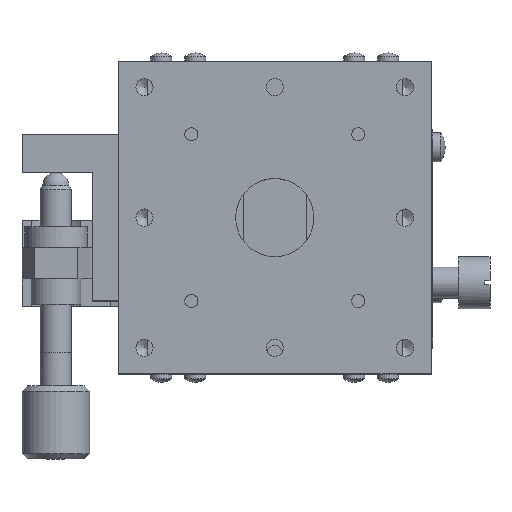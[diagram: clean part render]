
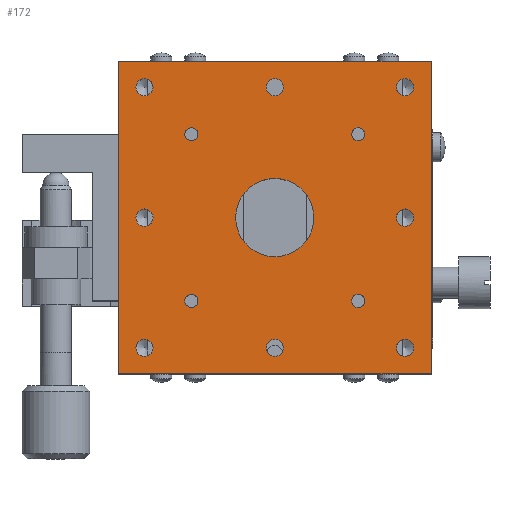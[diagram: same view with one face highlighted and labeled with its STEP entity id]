
A CAD part, top view. The second image highlights one B-rep face of the part: STEP entity #172.
In plain terms, the highlighted planar face has unit normal (0, 0, 1).
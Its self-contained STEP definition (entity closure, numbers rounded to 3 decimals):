
#172 = ADVANCED_FACE( '', ( #365, #366, #367, #368, #369, #370, #371, #372, #373, #374, #375, #376, #377, #378 ), #379, .T. );
#365 = FACE_BOUND( '', #876, .T. );
#366 = FACE_BOUND( '', #877, .T. );
#367 = FACE_BOUND( '', #878, .T. );
#368 = FACE_BOUND( '', #879, .T. );
#369 = FACE_BOUND( '', #880, .T. );
#370 = FACE_BOUND( '', #881, .T. );
#371 = FACE_BOUND( '', #882, .T. );
#372 = FACE_BOUND( '', #883, .T. );
#373 = FACE_BOUND( '', #884, .T. );
#374 = FACE_BOUND( '', #885, .T. );
#375 = FACE_BOUND( '', #886, .T. );
#376 = FACE_BOUND( '', #887, .T. );
#377 = FACE_BOUND( '', #888, .T. );
#378 = FACE_OUTER_BOUND( '', #889, .T. );
#379 = PLANE( '', #890 );
#876 = EDGE_LOOP( '', ( #1395 ) );
#877 = EDGE_LOOP( '', ( #1396 ) );
#878 = EDGE_LOOP( '', ( #1397 ) );
#879 = EDGE_LOOP( '', ( #1398 ) );
#880 = EDGE_LOOP( '', ( #1399 ) );
#881 = EDGE_LOOP( '', ( #1400 ) );
#882 = EDGE_LOOP( '', ( #1401 ) );
#883 = EDGE_LOOP( '', ( #1402 ) );
#884 = EDGE_LOOP( '', ( #1403 ) );
#885 = EDGE_LOOP( '', ( #1404 ) );
#886 = EDGE_LOOP( '', ( #1405 ) );
#887 = EDGE_LOOP( '', ( #1406 ) );
#888 = EDGE_LOOP( '', ( #1407 ) );
#889 = EDGE_LOOP( '', ( #1408, #1409, #1410, #1411 ) );
#890 = AXIS2_PLACEMENT_3D( '', #1412, #1413, #1414 );
#1395 = ORIENTED_EDGE( '', *, *, #2700, .T. );
#1396 = ORIENTED_EDGE( '', *, *, #2701, .T. );
#1397 = ORIENTED_EDGE( '', *, *, #2702, .T. );
#1398 = ORIENTED_EDGE( '', *, *, #2703, .T. );
#1399 = ORIENTED_EDGE( '', *, *, #2704, .T. );
#1400 = ORIENTED_EDGE( '', *, *, #2705, .T. );
#1401 = ORIENTED_EDGE( '', *, *, #2706, .T. );
#1402 = ORIENTED_EDGE( '', *, *, #2707, .T. );
#1403 = ORIENTED_EDGE( '', *, *, #2708, .T. );
#1404 = ORIENTED_EDGE( '', *, *, #2709, .T. );
#1405 = ORIENTED_EDGE( '', *, *, #2710, .T. );
#1406 = ORIENTED_EDGE( '', *, *, #2711, .T. );
#1407 = ORIENTED_EDGE( '', *, *, #2712, .T. );
#1408 = ORIENTED_EDGE( '', *, *, #2713, .F. );
#1409 = ORIENTED_EDGE( '', *, *, #2714, .F. );
#1410 = ORIENTED_EDGE( '', *, *, #2715, .F. );
#1411 = ORIENTED_EDGE( '', *, *, #2693, .F. );
#1412 = CARTESIAN_POINT( '', ( 0., 0., 20. ) );
#1413 = DIRECTION( '', ( 0., 0., 1. ) );
#1414 = DIRECTION( '', ( 1., 0., 0. ) );
#2693 = EDGE_CURVE( '', #3065, #3067, #3068, .T. );
#2700 = EDGE_CURVE( '', #3080, #3080, #3081, .T. );
#2701 = EDGE_CURVE( '', #3082, #3082, #3083, .T. );
#2702 = EDGE_CURVE( '', #3084, #3084, #3085, .T. );
#2703 = EDGE_CURVE( '', #3086, #3086, #3087, .T. );
#2704 = EDGE_CURVE( '', #3088, #3088, #3089, .T. );
#2705 = EDGE_CURVE( '', #3090, #3090, #3091, .T. );
#2706 = EDGE_CURVE( '', #3092, #3092, #3093, .T. );
#2707 = EDGE_CURVE( '', #3094, #3094, #3095, .T. );
#2708 = EDGE_CURVE( '', #3096, #3096, #3097, .T. );
#2709 = EDGE_CURVE( '', #3098, #3098, #3099, .T. );
#2710 = EDGE_CURVE( '', #3100, #3100, #3101, .T. );
#2711 = EDGE_CURVE( '', #3102, #3102, #3103, .T. );
#2712 = EDGE_CURVE( '', #3104, #3104, #3105, .T. );
#2713 = EDGE_CURVE( '', #3106, #3065, #3107, .T. );
#2714 = EDGE_CURVE( '', #3108, #3106, #3109, .T. );
#2715 = EDGE_CURVE( '', #3067, #3108, #3110, .T. );
#3065 = VERTEX_POINT( '', #3708 );
#3067 = VERTEX_POINT( '', #3711 );
#3068 = LINE( '', #3712, #3713 );
#3080 = VERTEX_POINT( '', #3731 );
#3081 = CIRCLE( '', #3732, 7.5 );
#3082 = VERTEX_POINT( '', #3733 );
#3083 = CIRCLE( '', #3734, 1.25 );
#3084 = VERTEX_POINT( '', #3735 );
#3085 = CIRCLE( '', #3736, 1.25 );
#3086 = VERTEX_POINT( '', #3737 );
#3087 = CIRCLE( '', #3738, 1.25 );
#3088 = VERTEX_POINT( '', #3739 );
#3089 = CIRCLE( '', #3740, 1.25 );
#3090 = VERTEX_POINT( '', #3741 );
#3091 = CIRCLE( '', #3742, 1.65 );
#3092 = VERTEX_POINT( '', #3743 );
#3093 = CIRCLE( '', #3744, 1.65 );
#3094 = VERTEX_POINT( '', #3745 );
#3095 = CIRCLE( '', #3746, 1.65 );
#3096 = VERTEX_POINT( '', #3747 );
#3097 = CIRCLE( '', #3748, 1.65 );
#3098 = VERTEX_POINT( '', #3749 );
#3099 = CIRCLE( '', #3750, 1.65 );
#3100 = VERTEX_POINT( '', #3751 );
#3101 = CIRCLE( '', #3752, 1.65 );
#3102 = VERTEX_POINT( '', #3753 );
#3103 = CIRCLE( '', #3754, 1.65 );
#3104 = VERTEX_POINT( '', #3755 );
#3105 = CIRCLE( '', #3756, 1.65 );
#3106 = VERTEX_POINT( '', #3757 );
#3107 = LINE( '', #3758, #3759 );
#3108 = VERTEX_POINT( '', #3760 );
#3109 = LINE( '', #3761, #3762 );
#3110 = LINE( '', #3763, #3764 );
#3708 = CARTESIAN_POINT( '', ( -30., -30., 20. ) );
#3711 = CARTESIAN_POINT( '', ( -30., 30., 20. ) );
#3712 = CARTESIAN_POINT( '', ( -30., 0., 20. ) );
#3713 = VECTOR( '', #4701, 1000. );
#3731 = CARTESIAN_POINT( '', ( 7.5, 0., 20. ) );
#3732 = AXIS2_PLACEMENT_3D( '', #4708, #4709, #4710 );
#3733 = CARTESIAN_POINT( '', ( 17.25, 16., 20. ) );
#3734 = AXIS2_PLACEMENT_3D( '', #4711, #4712, #4713 );
#3735 = CARTESIAN_POINT( '', ( -14.75, 16., 20. ) );
#3736 = AXIS2_PLACEMENT_3D( '', #4714, #4715, #4716 );
#3737 = CARTESIAN_POINT( '', ( -14.75, -16., 20. ) );
#3738 = AXIS2_PLACEMENT_3D( '', #4717, #4718, #4719 );
#3739 = CARTESIAN_POINT( '', ( 17.25, -16., 20. ) );
#3740 = AXIS2_PLACEMENT_3D( '', #4720, #4721, #4722 );
#3741 = CARTESIAN_POINT( '', ( 1.65, 25., 20. ) );
#3742 = AXIS2_PLACEMENT_3D( '', #4723, #4724, #4725 );
#3743 = CARTESIAN_POINT( '', ( 1.65, -25., 20. ) );
#3744 = AXIS2_PLACEMENT_3D( '', #4726, #4727, #4728 );
#3745 = CARTESIAN_POINT( '', ( 26.65, 0., 20. ) );
#3746 = AXIS2_PLACEMENT_3D( '', #4729, #4730, #4731 );
#3747 = CARTESIAN_POINT( '', ( 26.65, 25., 20. ) );
#3748 = AXIS2_PLACEMENT_3D( '', #4732, #4733, #4734 );
#3749 = CARTESIAN_POINT( '', ( -23.35, 25., 20. ) );
#3750 = AXIS2_PLACEMENT_3D( '', #4735, #4736, #4737 );
#3751 = CARTESIAN_POINT( '', ( -23.35, 0., 20. ) );
#3752 = AXIS2_PLACEMENT_3D( '', #4738, #4739, #4740 );
#3753 = CARTESIAN_POINT( '', ( -23.35, -25., 20. ) );
#3754 = AXIS2_PLACEMENT_3D( '', #4741, #4742, #4743 );
#3755 = CARTESIAN_POINT( '', ( 26.65, -25., 20. ) );
#3756 = AXIS2_PLACEMENT_3D( '', #4744, #4745, #4746 );
#3757 = CARTESIAN_POINT( '', ( 30., -30., 20. ) );
#3758 = CARTESIAN_POINT( '', ( 0., -30., 20. ) );
#3759 = VECTOR( '', #4747, 1000. );
#3760 = CARTESIAN_POINT( '', ( 30., 30., 20. ) );
#3761 = CARTESIAN_POINT( '', ( 30., 0., 20. ) );
#3762 = VECTOR( '', #4748, 1000. );
#3763 = CARTESIAN_POINT( '', ( 0., 30., 20. ) );
#3764 = VECTOR( '', #4749, 1000. );
#4701 = DIRECTION( '', ( 0., 1., 0. ) );
#4708 = CARTESIAN_POINT( '', ( 0., 0., 20. ) );
#4709 = DIRECTION( '', ( 0., 0., -1. ) );
#4710 = DIRECTION( '', ( 1., 0., 0. ) );
#4711 = CARTESIAN_POINT( '', ( 16., 16., 20. ) );
#4712 = DIRECTION( '', ( 0., 0., -1. ) );
#4713 = DIRECTION( '', ( 1., 0., 0. ) );
#4714 = CARTESIAN_POINT( '', ( -16., 16., 20. ) );
#4715 = DIRECTION( '', ( 0., 0., -1. ) );
#4716 = DIRECTION( '', ( 1., 0., 0. ) );
#4717 = CARTESIAN_POINT( '', ( -16., -16., 20. ) );
#4718 = DIRECTION( '', ( 0., 0., -1. ) );
#4719 = DIRECTION( '', ( 1., 0., 0. ) );
#4720 = CARTESIAN_POINT( '', ( 16., -16., 20. ) );
#4721 = DIRECTION( '', ( 0., 0., -1. ) );
#4722 = DIRECTION( '', ( 1., 0., 0. ) );
#4723 = CARTESIAN_POINT( '', ( 0., 25., 20. ) );
#4724 = DIRECTION( '', ( 0., 0., -1. ) );
#4725 = DIRECTION( '', ( 1., 0., 0. ) );
#4726 = CARTESIAN_POINT( '', ( 0., -25., 20. ) );
#4727 = DIRECTION( '', ( 0., 0., -1. ) );
#4728 = DIRECTION( '', ( 1., 0., 0. ) );
#4729 = CARTESIAN_POINT( '', ( 25., 0., 20. ) );
#4730 = DIRECTION( '', ( 0., 0., -1. ) );
#4731 = DIRECTION( '', ( 1., 0., 0. ) );
#4732 = CARTESIAN_POINT( '', ( 25., 25., 20. ) );
#4733 = DIRECTION( '', ( 0., 0., -1. ) );
#4734 = DIRECTION( '', ( 1., 0., 0. ) );
#4735 = CARTESIAN_POINT( '', ( -25., 25., 20. ) );
#4736 = DIRECTION( '', ( 0., 0., -1. ) );
#4737 = DIRECTION( '', ( 1., 0., 0. ) );
#4738 = CARTESIAN_POINT( '', ( -25., 0., 20. ) );
#4739 = DIRECTION( '', ( 0., 0., -1. ) );
#4740 = DIRECTION( '', ( 1., 0., 0. ) );
#4741 = CARTESIAN_POINT( '', ( -25., -25., 20. ) );
#4742 = DIRECTION( '', ( 0., 0., -1. ) );
#4743 = DIRECTION( '', ( 1., 0., 0. ) );
#4744 = CARTESIAN_POINT( '', ( 25., -25., 20. ) );
#4745 = DIRECTION( '', ( 0., 0., -1. ) );
#4746 = DIRECTION( '', ( 1., 0., 0. ) );
#4747 = DIRECTION( '', ( -1., 0., 0. ) );
#4748 = DIRECTION( '', ( 0., -1., 0. ) );
#4749 = DIRECTION( '', ( 1., 0., 0. ) );
